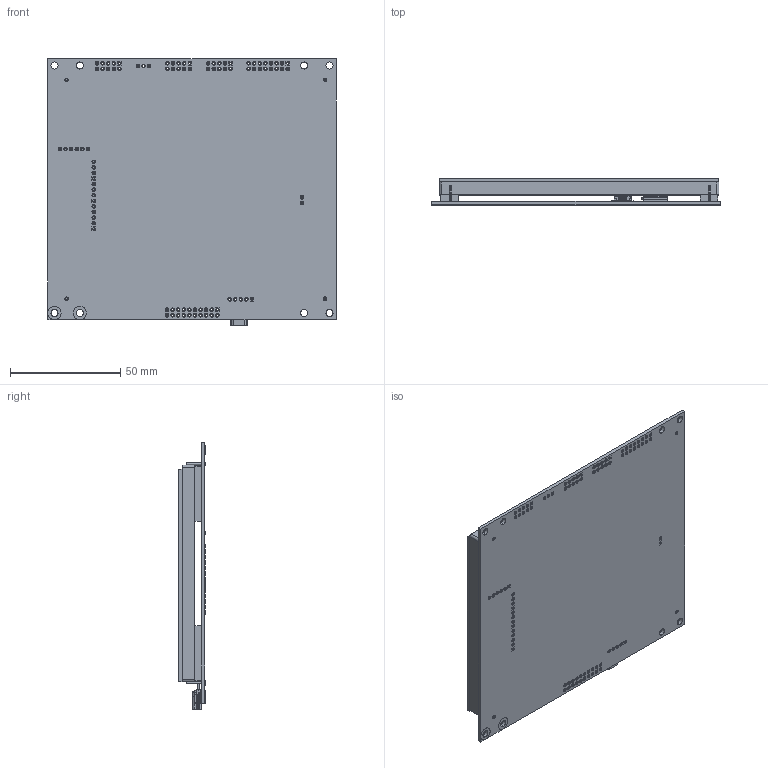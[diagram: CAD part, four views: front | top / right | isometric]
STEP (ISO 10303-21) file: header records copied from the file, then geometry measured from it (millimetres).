
FILE_DESCRIPTION (( 'STEP AP214' ), '1' );
FILE_NAME ('TU640x480C-K61XA1RU.STEP', '2014-12-17T16:00:50', ( '' ), ( '' ), 'SwSTEP 2.0', 'SolidWorks 2014', '' );
FILE_SCHEMA (( 'AUTOMOTIVE_DESIGN' ));
Length unit declared in the file: millimetre
Products named in the file (11): MOLEX - 54819-0572 - Mini USB; Micro SD; TU640x480C-K612A1; TU640x480C-K612A1 - PCB; TU640x480C-K61XA1RU; 5.7 inch screen
Assembly tree (5 placements, depth 2):
  MOLEX - 54819-0572 - Mini USB
  Micro SD
  TU640x480C-K612A1
  TU640x480C-K612A1 - PCB
  TU640x480C-K61XA1RU
    TU640x480C-K612A1 - PCB
    TU640x480C-K612A1
    Micro SD
    MOLEX - 54819-0572 - Mini USB
    5.7 inch screen
Bounding box: 131 x 12.2 x 121 mm (x, y, z)
Volume: 119271.4 mm3; surface area: 106852.9 mm2
Topology: 5 solids, 6 shells, 1402 faces, 3492 edges, 2306 vertices
Faces by surface type: plane 702, cylinder 675, bspline 25
Entity records: 54315 total; most frequent: CARTESIAN_POINT 8288, DIRECTION 7517, ORIENTED_EDGE 6919, EDGE_CURVE 3492, AXIS2_PLACEMENT_3D 2718, VERTEX_POINT 2306, LINE 2081, VECTOR 2081
